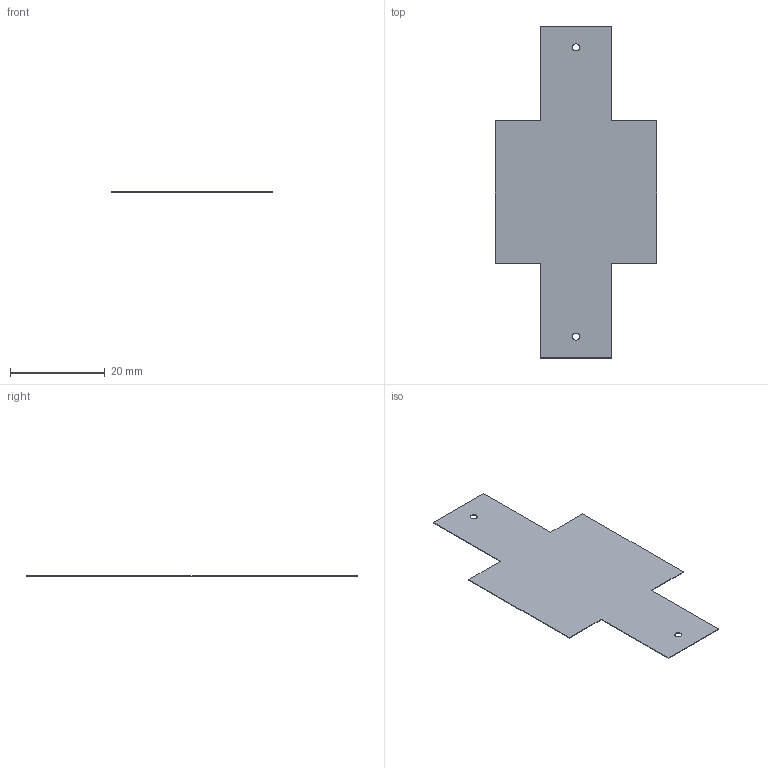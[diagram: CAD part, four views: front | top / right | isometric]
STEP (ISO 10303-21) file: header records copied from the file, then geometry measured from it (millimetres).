
FILE_DESCRIPTION (( 'STEP AP203' ), '1' );
FILE_NAME ('cover glass.step', '2026-06-05T03:33:02', ( '' ), ( '' ), 'SwSTEP 2.0', 'SolidWorks 2024', '' );
FILE_SCHEMA (( 'CONFIG_CONTROL_DESIGN' ));
Length unit declared in the file: millimetre
Products named in the file (1): cover glass
Bounding box: 34 x 70 x 0.13 mm (x, y, z)
Volume: 210.1 mm3; surface area: 3261.2 mm2
Topology: 1 solids, 1 shells, 18 faces, 48 edges, 32 vertices
Faces by surface type: plane 14, cylinder 4
Entity records: 645 total; most frequent: CARTESIAN_POINT 99, ORIENTED_EDGE 96, DIRECTION 94, EDGE_CURVE 48, VECTOR 40, LINE 40, VERTEX_POINT 32, AXIS2_PLACEMENT_3D 27
